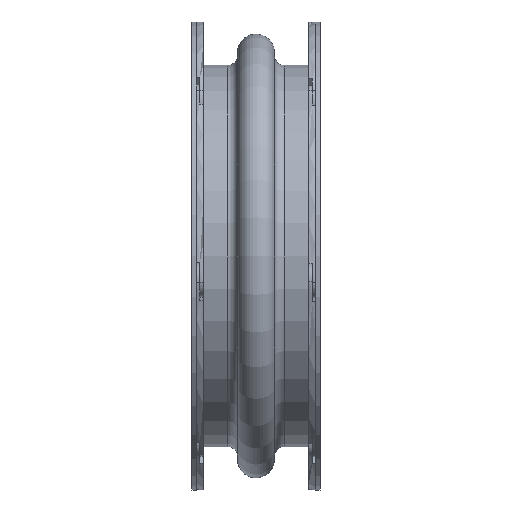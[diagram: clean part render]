
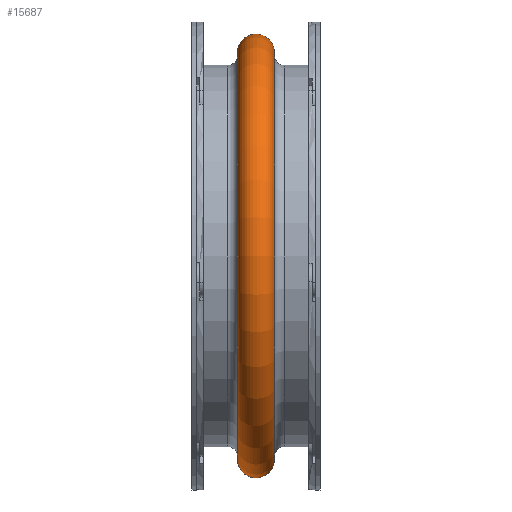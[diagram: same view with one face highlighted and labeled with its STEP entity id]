
A CAD part, front view. The second image highlights one B-rep face of the part: STEP entity #15687.
In plain terms, the highlighted toroidal (fillet/blend) face has major radius 403.225 mm and minor radius 36.513 mm.
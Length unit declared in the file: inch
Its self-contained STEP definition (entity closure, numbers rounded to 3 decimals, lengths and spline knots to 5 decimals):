
#260=FACE_BOUND('',#2643,.T.);
#1097=TOROIDAL_SURFACE('',#17265,15.875,1.4375);
#1564=FACE_OUTER_BOUND('',#2642,.T.);
#2642=EDGE_LOOP('',(#12080));
#2643=EDGE_LOOP('',(#12081));
#5511=CIRCLE('',#17264,15.92263);
#5512=CIRCLE('',#17266,15.92263);
#6954=VERTEX_POINT('',#26077);
#6955=VERTEX_POINT('',#26080);
#8810=EDGE_CURVE('',#6954,#6954,#5511,.T.);
#8811=EDGE_CURVE('',#6955,#6955,#5512,.T.);
#12080=ORIENTED_EDGE('',*,*,#8811,.F.);
#12081=ORIENTED_EDGE('',*,*,#8810,.T.);
#15687=ADVANCED_FACE('',(#1564,#260),#1097,.T.);
#17264=AXIS2_PLACEMENT_3D('',#26078,#21033,#21034);
#17265=AXIS2_PLACEMENT_3D('',#26079,#21035,#21036);
#17266=AXIS2_PLACEMENT_3D('',#26081,#21037,#21038);
#21033=DIRECTION('center_axis',(1.,0.,0.));
#21034=DIRECTION('ref_axis',(0.,0.,-1.));
#21035=DIRECTION('center_axis',(1.,0.,0.));
#21036=DIRECTION('ref_axis',(0.,0.,-1.));
#21037=DIRECTION('center_axis',(1.,0.,0.));
#21038=DIRECTION('ref_axis',(0.,0.,-1.));
#26077=CARTESIAN_POINT('',(-1.43671,15.92263,0.));
#26078=CARTESIAN_POINT('Origin',(-1.43671,0.,
0.));
#26079=CARTESIAN_POINT('Origin',(0.,0.,
0.));
#26080=CARTESIAN_POINT('',(1.43671,15.92263,0.));
#26081=CARTESIAN_POINT('Origin',(1.43671,0.,0.));
